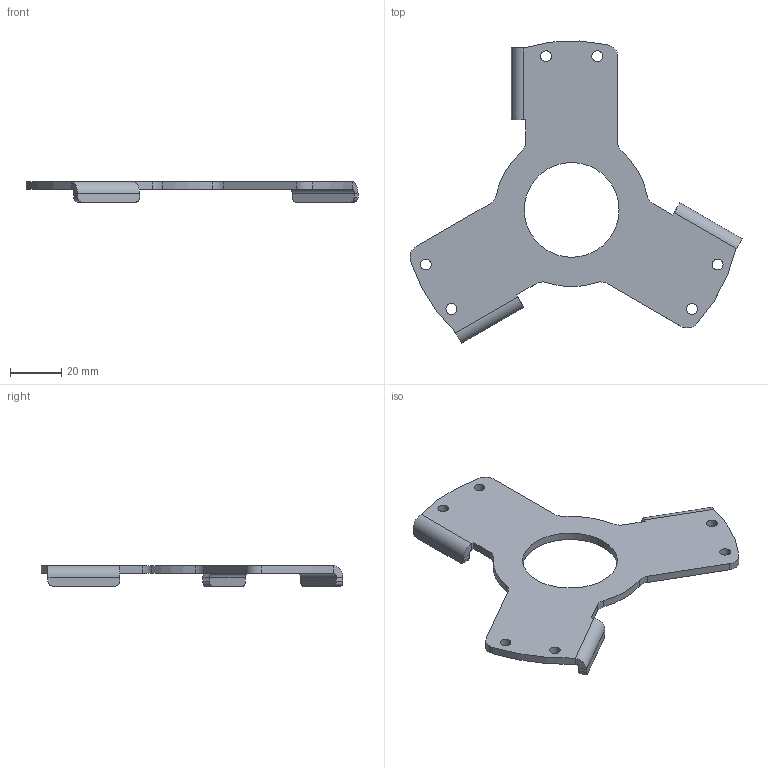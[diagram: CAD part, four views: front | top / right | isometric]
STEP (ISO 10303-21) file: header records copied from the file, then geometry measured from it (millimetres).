
FILE_DESCRIPTION (( 'STEP AP203' ), '1' );
FILE_NAME ('048227-A.STEP', '2025-03-07T13:15:44', ( '' ), ( '' ), 'SwSTEP 2.0', 'SolidWorks 2024', '' );
FILE_SCHEMA (( 'CONFIG_CONTROL_DESIGN' ));
Length unit declared in the file: millimetre
Products named in the file (1): 048227-A
Bounding box: 129.6 x 117.89 x 8 mm (x, y, z)
Volume: 19310.8 mm3; surface area: 14851.8 mm2
Topology: 1 solids, 1 shells, 73 faces, 189 edges, 118 vertices
Faces by surface type: cylinder 41, plane 32
Entity records: 2338 total; most frequent: DIRECTION 419, CARTESIAN_POINT 381, ORIENTED_EDGE 378, EDGE_CURVE 189, AXIS2_PLACEMENT_3D 156, VERTEX_POINT 118, LINE 107, VECTOR 107
